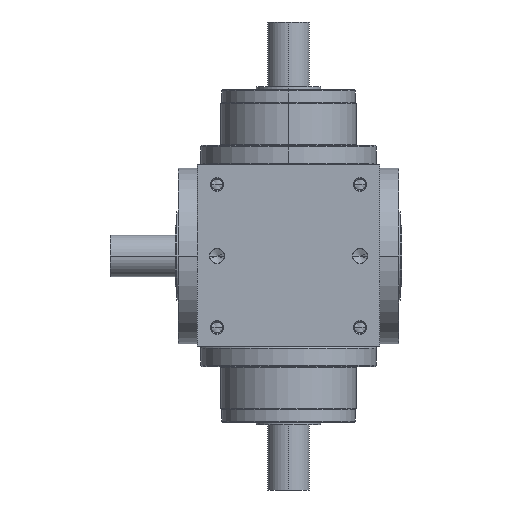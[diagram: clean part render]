
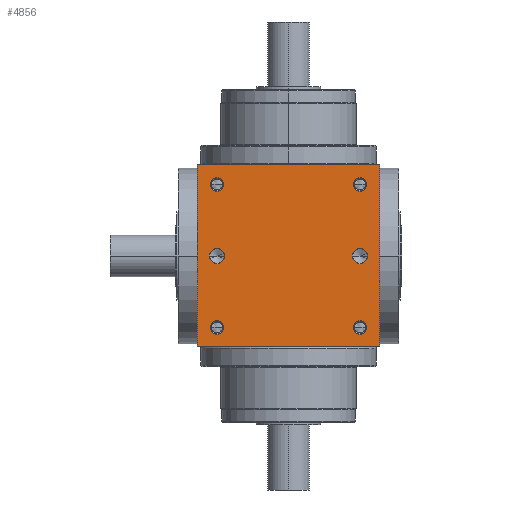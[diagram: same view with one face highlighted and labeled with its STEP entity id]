
A CAD part, front view. The second image highlights one B-rep face of the part: STEP entity #4856.
In plain terms, the highlighted planar face has unit normal (0, -1, 0).
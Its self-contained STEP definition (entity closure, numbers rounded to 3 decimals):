
#5=DIRECTION('',(1.,0.,0.));
#6=VECTOR('',#5,140.);
#7=CARTESIAN_POINT('',(-70.,-70.,-70.));
#8=LINE('',#7,#6);
#165=DIRECTION('',(0.,0.,1.));
#166=VECTOR('',#165,140.);
#167=CARTESIAN_POINT('',(70.,-70.,-70.));
#168=LINE('',#167,#166);
#219=DIRECTION('',(0.,0.,1.));
#220=VECTOR('',#219,140.);
#221=CARTESIAN_POINT('',(-70.,-70.,-70.));
#222=LINE('',#221,#220);
#223=CARTESIAN_POINT('',(55.,-70.,55.));
#224=DIRECTION('',(0.,1.,0.));
#225=DIRECTION('',(-1.,0.,0.));
#226=AXIS2_PLACEMENT_3D('',#223,#224,#225);
#228=CARTESIAN_POINT('',(55.,-70.,55.));
#229=DIRECTION('',(0.,1.,0.));
#230=DIRECTION('',(1.,0.,0.));
#231=AXIS2_PLACEMENT_3D('',#228,#229,#230);
#233=CARTESIAN_POINT('',(-55.,-70.,55.));
#234=DIRECTION('',(0.,1.,0.));
#235=DIRECTION('',(-1.,0.,0.));
#236=AXIS2_PLACEMENT_3D('',#233,#234,#235);
#238=CARTESIAN_POINT('',(-55.,-70.,55.));
#239=DIRECTION('',(0.,1.,0.));
#240=DIRECTION('',(1.,0.,0.));
#241=AXIS2_PLACEMENT_3D('',#238,#239,#240);
#243=CARTESIAN_POINT('',(55.,-70.,-55.));
#244=DIRECTION('',(0.,1.,0.));
#245=DIRECTION('',(-1.,0.,0.));
#246=AXIS2_PLACEMENT_3D('',#243,#244,#245);
#248=CARTESIAN_POINT('',(55.,-70.,-55.));
#249=DIRECTION('',(0.,1.,0.));
#250=DIRECTION('',(1.,0.,0.));
#251=AXIS2_PLACEMENT_3D('',#248,#249,#250);
#253=CARTESIAN_POINT('',(-55.,-70.,-55.));
#254=DIRECTION('',(0.,1.,0.));
#255=DIRECTION('',(-1.,0.,0.));
#256=AXIS2_PLACEMENT_3D('',#253,#254,#255);
#258=CARTESIAN_POINT('',(-55.,-70.,-55.));
#259=DIRECTION('',(0.,1.,0.));
#260=DIRECTION('',(1.,0.,0.));
#261=AXIS2_PLACEMENT_3D('',#258,#259,#260);
#263=CARTESIAN_POINT('',(-55.,-70.,0.));
#264=DIRECTION('',(0.,1.,0.));
#265=DIRECTION('',(1.,0.,0.));
#266=AXIS2_PLACEMENT_3D('',#263,#264,#265);
#268=CARTESIAN_POINT('',(-55.,-70.,0.));
#269=DIRECTION('',(0.,1.,0.));
#270=DIRECTION('',(-1.,0.,0.));
#271=AXIS2_PLACEMENT_3D('',#268,#269,#270);
#273=CARTESIAN_POINT('',(55.,-70.,0.));
#274=DIRECTION('',(0.,1.,0.));
#275=DIRECTION('',(1.,0.,0.));
#276=AXIS2_PLACEMENT_3D('',#273,#274,#275);
#278=CARTESIAN_POINT('',(55.,-70.,0.));
#279=DIRECTION('',(0.,1.,0.));
#280=DIRECTION('',(-1.,0.,0.));
#281=AXIS2_PLACEMENT_3D('',#278,#279,#280);
#295=DIRECTION('',(1.,0.,0.));
#296=VECTOR('',#295,140.);
#297=CARTESIAN_POINT('',(-70.,-70.,70.));
#298=LINE('',#297,#296);
#3878=CARTESIAN_POINT('',(-70.,-70.,-70.));
#3880=VERTEX_POINT('',#3878);
#3881=CARTESIAN_POINT('',(70.,-70.,-70.));
#3882=VERTEX_POINT('',#3881);
#3886=CARTESIAN_POINT('',(-70.,-70.,70.));
#3888=VERTEX_POINT('',#3886);
#3889=CARTESIAN_POINT('',(70.,-70.,70.));
#3890=VERTEX_POINT('',#3889);
#4061=CARTESIAN_POINT('',(49.75,-70.,55.));
#4062=CARTESIAN_POINT('',(60.25,-70.,55.));
#4063=VERTEX_POINT('',#4061);
#4064=VERTEX_POINT('',#4062);
#4069=CARTESIAN_POINT('',(-60.25,-70.,55.));
#4070=CARTESIAN_POINT('',(-49.75,-70.,55.));
#4071=VERTEX_POINT('',#4069);
#4072=VERTEX_POINT('',#4070);
#4077=CARTESIAN_POINT('',(49.75,-70.,-55.));
#4078=CARTESIAN_POINT('',(60.25,-70.,-55.));
#4079=VERTEX_POINT('',#4077);
#4080=VERTEX_POINT('',#4078);
#4085=CARTESIAN_POINT('',(-60.25,-70.,-55.));
#4086=CARTESIAN_POINT('',(-49.75,-70.,-55.));
#4087=VERTEX_POINT('',#4085);
#4088=VERTEX_POINT('',#4086);
#4427=CARTESIAN_POINT('',(-49.15,-70.,
0.));
#4428=CARTESIAN_POINT('',(-60.85,-70.,0.));
#4429=VERTEX_POINT('',#4427);
#4430=VERTEX_POINT('',#4428);
#4435=CARTESIAN_POINT('',(60.85,-70.,0.));
#4436=CARTESIAN_POINT('',(49.15,-70.,0.));
#4437=VERTEX_POINT('',#4435);
#4438=VERTEX_POINT('',#4436);
#4808=CARTESIAN_POINT('',(-70.,-70.,-70.));
#4809=DIRECTION('',(0.,-1.,0.));
#4810=DIRECTION('',(1.,0.,0.));
#4811=AXIS2_PLACEMENT_3D('',#4808,#4809,#4810);
#4812=PLANE('',#4811);
#4813=ORIENTED_EDGE('',*,*,#4642,.F.);
#4814=ORIENTED_EDGE('',*,*,#4691,.T.);
#4816=ORIENTED_EDGE('',*,*,#4815,.T.);
#4817=ORIENTED_EDGE('',*,*,#4770,.F.);
#4818=EDGE_LOOP('',(#4813,#4814,#4816,#4817));
#4819=FACE_OUTER_BOUND('',#4818,.F.);
#4821=ORIENTED_EDGE('',*,*,#4820,.F.);
#4823=ORIENTED_EDGE('',*,*,#4822,.F.);
#4824=EDGE_LOOP('',(#4821,#4823));
#4825=FACE_BOUND('',#4824,.F.);
#4827=ORIENTED_EDGE('',*,*,#4826,.F.);
#4829=ORIENTED_EDGE('',*,*,#4828,.F.);
#4830=EDGE_LOOP('',(#4827,#4829));
#4831=FACE_BOUND('',#4830,.F.);
#4833=ORIENTED_EDGE('',*,*,#4832,.F.);
#4835=ORIENTED_EDGE('',*,*,#4834,.F.);
#4836=EDGE_LOOP('',(#4833,#4835));
#4837=FACE_BOUND('',#4836,.F.);
#4839=ORIENTED_EDGE('',*,*,#4838,.F.);
#4841=ORIENTED_EDGE('',*,*,#4840,.F.);
#4842=EDGE_LOOP('',(#4839,#4841));
#4843=FACE_BOUND('',#4842,.F.);
#4845=ORIENTED_EDGE('',*,*,#4844,.F.);
#4847=ORIENTED_EDGE('',*,*,#4846,.F.);
#4848=EDGE_LOOP('',(#4845,#4847));
#4849=FACE_BOUND('',#4848,.F.);
#4851=ORIENTED_EDGE('',*,*,#4850,.F.);
#4853=ORIENTED_EDGE('',*,*,#4852,.F.);
#4854=EDGE_LOOP('',(#4851,#4853));
#4855=FACE_BOUND('',#4854,.F.);
#4856=ADVANCED_FACE('',(#4819,#4825,#4831,#4837,#4843,#4849,#4855),#4812,.T.);
#227=CIRCLE('',#226,5.25);
#232=CIRCLE('',#231,5.25);
#237=CIRCLE('',#236,5.25);
#242=CIRCLE('',#241,5.25);
#247=CIRCLE('',#246,5.25);
#252=CIRCLE('',#251,5.25);
#257=CIRCLE('',#256,5.25);
#262=CIRCLE('',#261,5.25);
#267=CIRCLE('',#266,5.85);
#272=CIRCLE('',#271,5.85);
#277=CIRCLE('',#276,5.85);
#282=CIRCLE('',#281,5.85);
#4642=EDGE_CURVE('',#3880,#3882,#8,.T.);
#4691=EDGE_CURVE('',#3880,#3888,#222,.T.);
#4770=EDGE_CURVE('',#3882,#3890,#168,.T.);
#4815=EDGE_CURVE('',#3888,#3890,#298,.T.);
#4820=EDGE_CURVE('',#4063,#4064,#227,.T.);
#4822=EDGE_CURVE('',#4064,#4063,#232,.T.);
#4826=EDGE_CURVE('',#4071,#4072,#237,.T.);
#4828=EDGE_CURVE('',#4072,#4071,#242,.T.);
#4832=EDGE_CURVE('',#4079,#4080,#247,.T.);
#4834=EDGE_CURVE('',#4080,#4079,#252,.T.);
#4838=EDGE_CURVE('',#4087,#4088,#257,.T.);
#4840=EDGE_CURVE('',#4088,#4087,#262,.T.);
#4844=EDGE_CURVE('',#4429,#4430,#267,.T.);
#4846=EDGE_CURVE('',#4430,#4429,#272,.T.);
#4850=EDGE_CURVE('',#4437,#4438,#277,.T.);
#4852=EDGE_CURVE('',#4438,#4437,#282,.T.);
